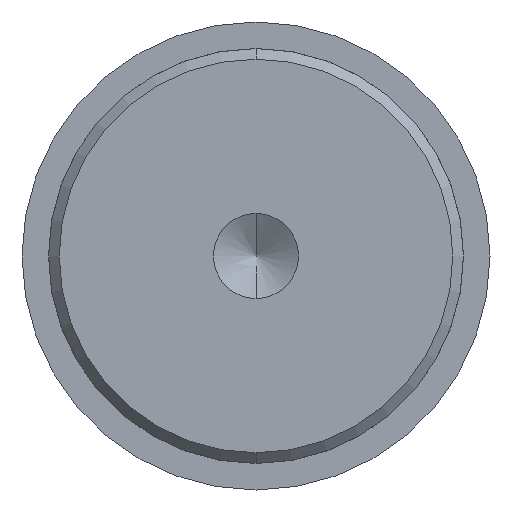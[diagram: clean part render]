
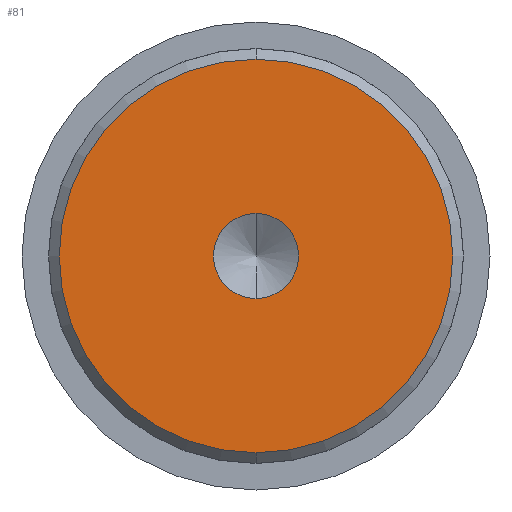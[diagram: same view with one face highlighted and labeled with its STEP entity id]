
A CAD part, left-side view. The second image highlights one B-rep face of the part: STEP entity #81.
In plain terms, the highlighted free-form (B-spline) face has degree [1, 1] with [2, 2] control points.
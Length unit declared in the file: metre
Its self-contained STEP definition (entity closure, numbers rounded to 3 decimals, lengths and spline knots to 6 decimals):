
#81 = ADVANCED_FACE( '', ( #116, #117 ), #118, .T. );
#116 = FACE_BOUND( '', #186, .T. );
#117 = FACE_OUTER_BOUND( '', #187, .T. );
#118 = B_SPLINE_SURFACE_WITH_KNOTS( '', 1, 1, ( ( #188, #189 ), ( #190, #191 ) ), .UNSPECIFIED., .F., .F., .F., ( 2, 2 ), ( 2, 2 ), ( 0., 1. ), ( 0., 1. ), .UNSPECIFIED. );
#186 = EDGE_LOOP( '', ( #345, #346 ) );
#187 = EDGE_LOOP( '', ( #347, #348 ) );
#188 = CARTESIAN_POINT( '', ( -0.164, -0.018722, -0.018722 ) );
#189 = CARTESIAN_POINT( '', ( -0.164, 0.018722, -0.018722 ) );
#190 = CARTESIAN_POINT( '', ( -0.164, -0.018722, 0.018722 ) );
#191 = CARTESIAN_POINT( '', ( -0.164, 0.018722, 0.018722 ) );
#345 = ORIENTED_EDGE( '', *, *, #522, .T. );
#346 = ORIENTED_EDGE( '', *, *, #520, .T. );
#347 = ORIENTED_EDGE( '', *, *, #523, .T. );
#348 = ORIENTED_EDGE( '', *, *, #524, .T. );
#520 = EDGE_CURVE( '', #582, #580, #583, .T. );
#522 = EDGE_CURVE( '', #580, #582, #585, .T. );
#523 = EDGE_CURVE( '', #586, #587, #588, .F. );
#524 = EDGE_CURVE( '', #587, #586, #589, .F. );
#580 = VERTEX_POINT( '', #673 );
#582 = VERTEX_POINT( '', #676 );
#583 = CIRCLE( '', #677, 0.004 );
#585 = CIRCLE( '', #680, 0.004 );
#586 = VERTEX_POINT( '', #681 );
#587 = VERTEX_POINT( '', #682 );
#588 = CIRCLE( '', #683, 0.0185 );
#589 = CIRCLE( '', #684, 0.0185 );
#673 = CARTESIAN_POINT( '', ( -0.164, 0., -0.004 ) );
#676 = CARTESIAN_POINT( '', ( -0.164, 0., 0.004 ) );
#677 = AXIS2_PLACEMENT_3D( '', #806, #807, #808 );
#680 = AXIS2_PLACEMENT_3D( '', #810, #811, #812 );
#681 = CARTESIAN_POINT( '', ( -0.164, 0., 0.0185 ) );
#682 = CARTESIAN_POINT( '', ( -0.164, 0., -0.0185 ) );
#683 = AXIS2_PLACEMENT_3D( '', #813, #814, #815 );
#684 = AXIS2_PLACEMENT_3D( '', #816, #817, #818 );
#806 = CARTESIAN_POINT( '', ( -0.164, 0., 0. ) );
#807 = DIRECTION( '', ( 1., 0., 0. ) );
#808 = DIRECTION( '', ( 0., 0., -1. ) );
#810 = CARTESIAN_POINT( '', ( -0.164, 0., 0. ) );
#811 = DIRECTION( '', ( 1., 0., 0. ) );
#812 = DIRECTION( '', ( 0., 0., -1. ) );
#813 = CARTESIAN_POINT( '', ( -0.164, 0., 0. ) );
#814 = DIRECTION( '', ( 1., 0., 0. ) );
#815 = DIRECTION( '', ( 0., 0., -1. ) );
#816 = CARTESIAN_POINT( '', ( -0.164, 0., 0. ) );
#817 = DIRECTION( '', ( 1., 0., 0. ) );
#818 = DIRECTION( '', ( 0., 0., -1. ) );
